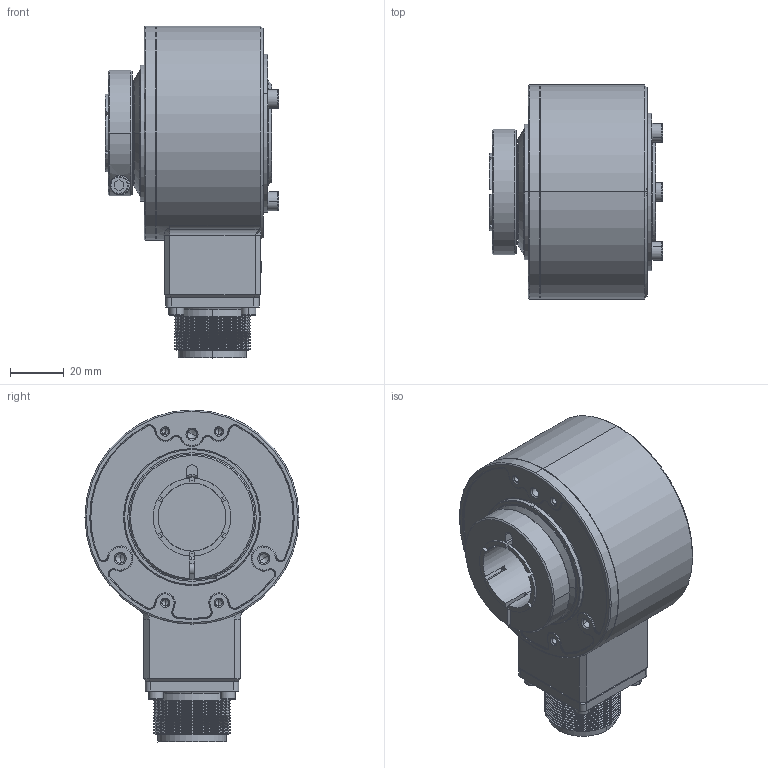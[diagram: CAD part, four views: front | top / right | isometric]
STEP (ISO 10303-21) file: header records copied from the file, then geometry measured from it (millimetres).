
FILE_DESCRIPTION(('STEP AP214'),'1');
FILE_NAME('llt.stp','2018-09-25T13:54:12',(' '),(' '),'Spatial InterOp 3D',' ',' ');
FILE_SCHEMA(('automotive_design'));
Length unit declared in the file: millimetre
Products named in the file (11): 1; 2; 3; 4; 5; 6; 7; 8; 9; 10; 11
Bounding box: 64.75 x 80 x 124.05 mm (x, y, z)
Volume: 250700 mm3; surface area: 59133.5 mm2
Topology: 11 solids, 45 shells, 1708 faces, 4179 edges, 2577 vertices
Faces by surface type: cylinder 557, plane 405, cone 371, torus 209, bspline 72, sphere 48, extrusion 46
Entity records: 71065 total; most frequent: CARTESIAN_POINT 17501, DIRECTION 8517, ORIENTED_EDGE 8218, EDGE_CURVE 4109, AXIS2_PLACEMENT_3D 3441, VERTEX_POINT 2577, CIRCLE 1840, EDGE_LOOP 1832
